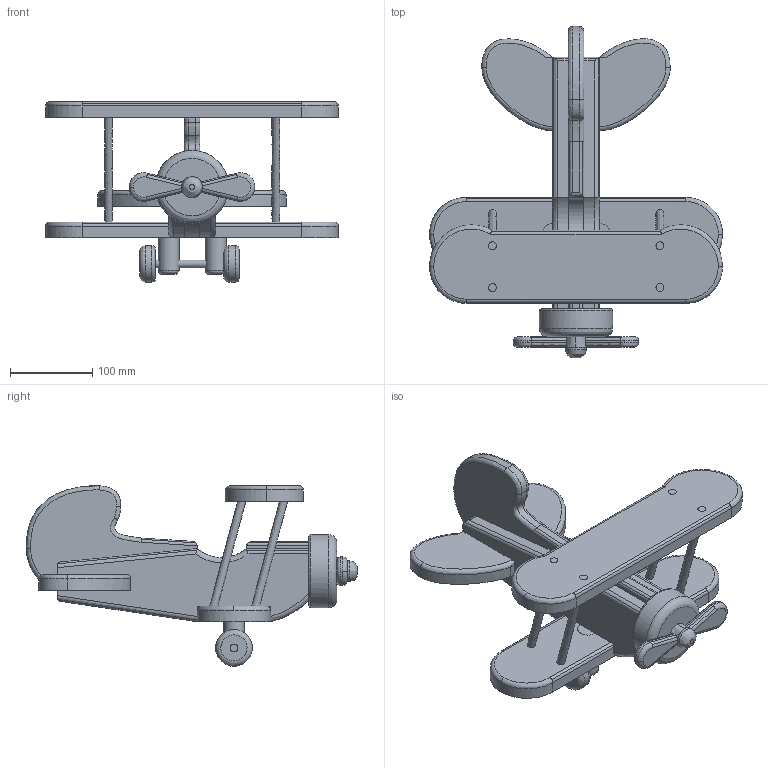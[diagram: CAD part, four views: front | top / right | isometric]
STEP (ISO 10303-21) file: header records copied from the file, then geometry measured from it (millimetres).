
FILE_DESCRIPTION ((), '1');
FILE_NAME ('/Volumes/Data/Drawings/Moi3D/biplane/biplane 20210606.stp', '2021-06-06T11:22:34', ('Unknown'), ('Unknown'), 'HarmonyWare STEP v2.1.4', 'HarmonyWare Translators', '');
FILE_SCHEMA (('CONFIG_CONTROL_DESIGN'));
Length unit declared in the file: inch
Products named in the file (21): fuselage sides; prop axle; prop; wheel struts; bottom wing; prop cap; horizontal tail; wheels; fuselage center; top wing; wing struts; axle
Assembly tree (20 placements, depth 2):
  (unnamed)
    fuselage sides
    prop axle
    prop
    fuselage sides
    wheel struts
    bottom wing
    prop cap
    horizontal tail
    wheel struts
    wheels
    horizontal tail
    wheel struts
    wheels
    fuselage center
    top wing
    wing struts
    wing struts
    wing struts
    wing struts
    axle
Bounding box: 355.6 x 402.12 x 219.1 mm (x, y, z)
Volume: 3202761.8 mm3; surface area: 470297.1 mm2
Topology: 20 solids, 20 shells, 256 faces, 659 edges, 425 vertices
Faces by surface type: bspline 256
Entity records: 29225 total; most frequent: CARTESIAN_POINT 22649, ORIENTED_EDGE 1278, EDGE_CURVE 639, VERTEX_POINT 425, B_SPLINE_CURVE_WITH_KNOTS 391, EDGE_LOOP 270, FACE_OUTER_BOUND 256, ADVANCED_FACE 256
